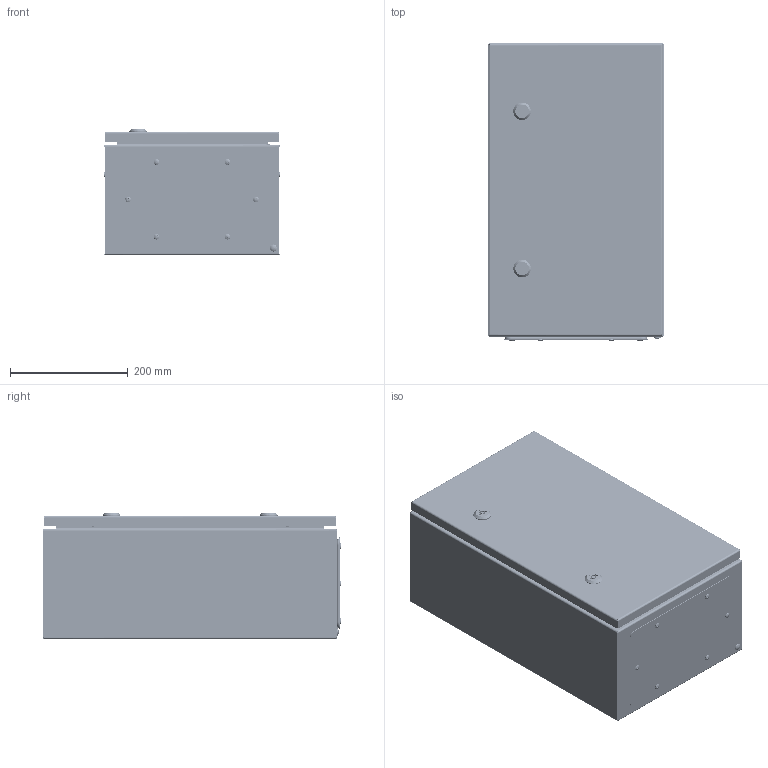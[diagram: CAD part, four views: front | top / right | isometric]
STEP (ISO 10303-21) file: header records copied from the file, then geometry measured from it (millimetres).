
FILE_DESCRIPTION (( 'STEP AP214' ), '1' );
FILE_NAME ('T-CCS 50.30.21.STEP', '2024-08-19T15:05:09', ( '' ), ( '' ), 'SwSTEP 2.0', 'SolidWorks 2019', '' );
FILE_SCHEMA (( 'AUTOMOTIVE_DESIGN' ));
Length unit declared in the file: millimetre
Products named in the file (1): T-CCS 50.30.21
Bounding box: 300 x 506.62 x 214.15 mm (x, y, z)
Volume: 2043786.2 mm3; surface area: 2006031.3 mm2
Topology: 77 solids, 77 shells, 3784 faces, 9628 edges, 6094 vertices
Faces by surface type: plane 1926, cylinder 1231, cone 320, bspline 160, torus 108, sphere 39
Entity records: 202108 total; most frequent: CARTESIAN_POINT 70594, ORIENTED_EDGE 19154, DIRECTION 17848, EDGE_CURVE 9577, AXIS2_PLACEMENT_3D 6111, VERTEX_POINT 6092, VECTOR 5626, LINE 5626
